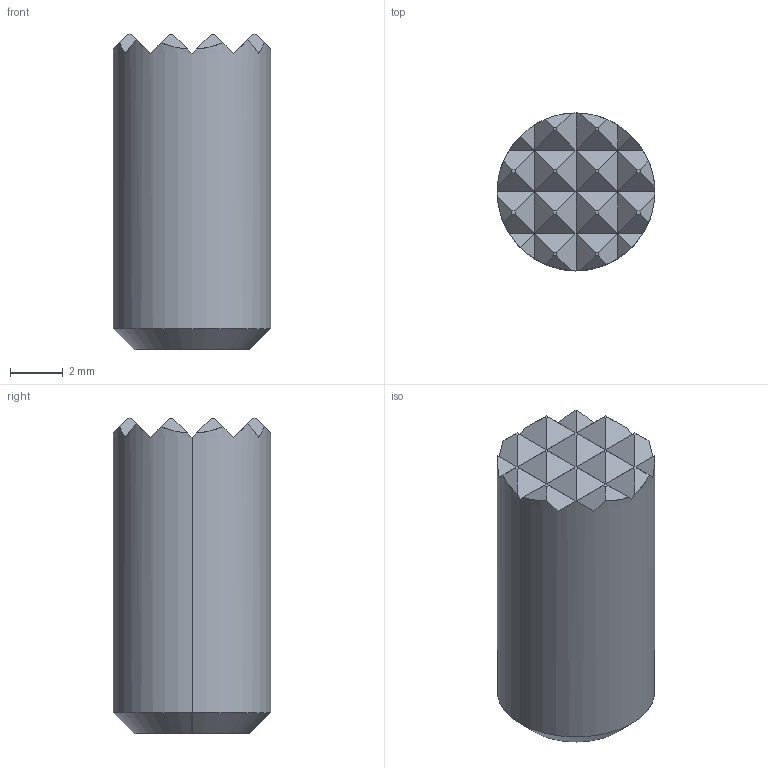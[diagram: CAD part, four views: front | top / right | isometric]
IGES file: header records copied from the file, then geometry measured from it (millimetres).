
Start section: SolidWorks IGES file using analytic representation for surfaces
Global section: file name: X:\11_SW2020-Inv2020\00_全2021-11新製品まで\h\HS-062\hs-062.IGS; native system: SolidWorks 2020; preprocessor: SolidWorks 2020; author: ImaoCorp; date: 211026.101556; units: millimetre
Bounding box: 6 x 6 x 12 mm (x, y, z)
Surface area: 341.5 mm2 (no closed solid volume)
Topology: 0 solids, 0 shells, 76 faces, 438 edges, 438 vertices
Faces by surface type: bspline 70, revolution 6
